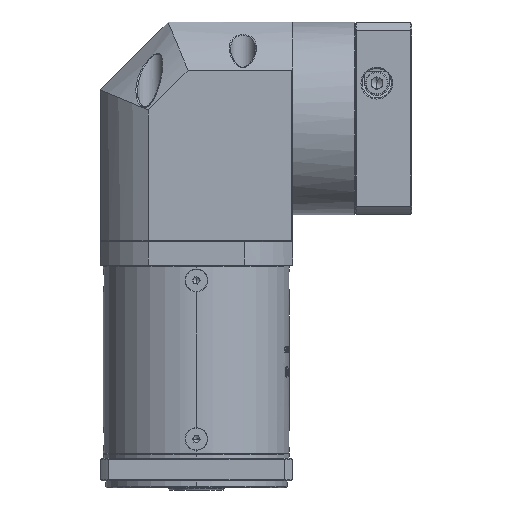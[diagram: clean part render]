
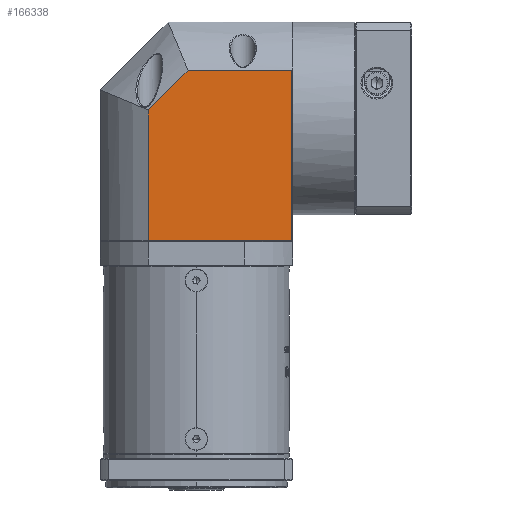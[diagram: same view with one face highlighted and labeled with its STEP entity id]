
A CAD part, front view. The second image highlights one B-rep face of the part: STEP entity #166338.
In plain terms, the highlighted planar face has unit normal (0, -1, 0).
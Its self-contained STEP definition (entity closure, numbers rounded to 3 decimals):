
#806 = DIRECTION ( 'NONE',  ( 0.707, 0., 0.707 ) ) ;
#5085 = ORIENTED_EDGE ( 'NONE', *, *, #139940, .F. ) ;
#8796 = VERTEX_POINT ( 'NONE', #100191 ) ;
#17416 = EDGE_CURVE ( 'NONE', #108785, #168702, #36754, .T. ) ;
#20379 = CARTESIAN_POINT ( 'NONE',  ( 57.16, 102.722, -49.014 ) ) ;
#22362 = CARTESIAN_POINT ( 'NONE',  ( 57.16, 102.722, 47.486 ) ) ;
#22532 = ORIENTED_EDGE ( 'NONE', *, *, #17416, .T. ) ;
#25609 = ORIENTED_EDGE ( 'NONE', *, *, #64110, .F. ) ;
#27251 = CARTESIAN_POINT ( 'NONE',  ( -6.053, 102.722, 8.669 ) ) ;
#32748 = DIRECTION ( 'NONE',  ( 1., 0., 0. ) ) ;
#36754 = LINE ( 'NONE', #138659, #67730 ) ;
#59179 = CARTESIAN_POINT ( 'NONE',  ( -6.053, 102.722, 47.486 ) ) ;
#64110 = EDGE_CURVE ( 'NONE', #93263, #8796, #151516, .T. ) ;
#65187 = VECTOR ( 'NONE', #166862, 1000. ) ;
#66480 = FACE_OUTER_BOUND ( 'NONE', #166970, .T. ) ;
#67730 = VECTOR ( 'NONE', #32748, 1000. ) ;
#68125 = VECTOR ( 'NONE', #151713, 1000. ) ;
#76261 = DIRECTION ( 'NONE',  ( 0., 1., 0. ) ) ;
#81141 = VECTOR ( 'NONE', #96403, 1000. ) ;
#93263 = VERTEX_POINT ( 'NONE', #157473 ) ;
#94265 = CARTESIAN_POINT ( 'NONE',  ( -6.053, 102.722, -49.014 ) ) ;
#95434 = EDGE_CURVE ( 'NONE', #130582, #93263, #134446, .T. ) ;
#96403 = DIRECTION ( 'NONE',  ( 1., 0., 0. ) ) ;
#99182 = VECTOR ( 'NONE', #806, 1000. ) ;
#100191 = CARTESIAN_POINT ( 'NONE',  ( 57.16, 102.722, 26.199 ) ) ;
#108785 = VERTEX_POINT ( 'NONE', #94265 ) ;
#113081 = ORIENTED_EDGE ( 'NONE', *, *, #95434, .F. ) ;
#123105 = CARTESIAN_POINT ( 'NONE',  ( 57.66, 102.722, 26.199 ) ) ;
#130582 = VERTEX_POINT ( 'NONE', #139414 ) ;
#134446 = LINE ( 'NONE', #27251, #99182 ) ;
#137120 = ORIENTED_EDGE ( 'NONE', *, *, #141609, .F. ) ;
#138587 = LINE ( 'NONE', #59179, #68125 ) ;
#138659 = CARTESIAN_POINT ( 'NONE',  ( 57.66, 102.722, -49.014 ) ) ;
#139414 = CARTESIAN_POINT ( 'NONE',  ( -6.053, 102.722, 8.669 ) ) ;
#139940 = EDGE_CURVE ( 'NONE', #8796, #168702, #170666, .T. ) ;
#140396 = AXIS2_PLACEMENT_3D ( 'NONE', #155472, #76261, #168728 ) ;
#141108 = PLANE ( 'NONE',  #140396 ) ;
#141609 = EDGE_CURVE ( 'NONE', #108785, #130582, #138587, .T. ) ;
#151516 = LINE ( 'NONE', #123105, #81141 ) ;
#151713 = DIRECTION ( 'NONE',  ( 0., 0., 1. ) ) ;
#155472 = CARTESIAN_POINT ( 'NONE',  ( 57.66, 102.722, 47.486 ) ) ;
#157473 = CARTESIAN_POINT ( 'NONE',  ( 11.477, 102.722, 26.199 ) ) ;
#166338 = ADVANCED_FACE ( 'NONE', ( #66480 ), #141108, .F. ) ;
#166862 = DIRECTION ( 'NONE',  ( 0., 0., -1. ) ) ;
#166970 = EDGE_LOOP ( 'NONE', ( #22532, #5085, #25609, #113081, #137120 ) ) ;
#168702 = VERTEX_POINT ( 'NONE', #20379 ) ;
#168728 = DIRECTION ( 'NONE',  ( -1., 0., 0. ) ) ;
#170666 = LINE ( 'NONE', #22362, #65187 ) ;
